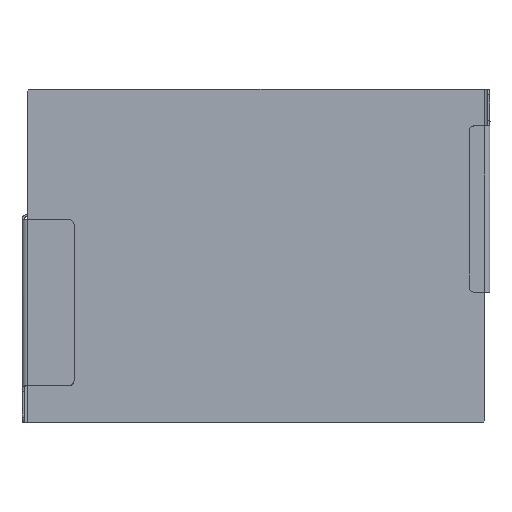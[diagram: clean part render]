
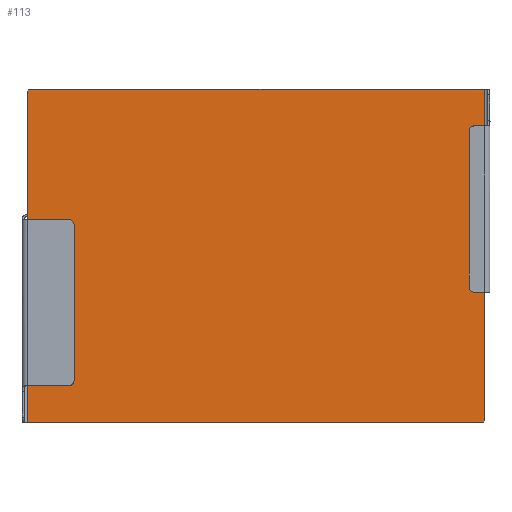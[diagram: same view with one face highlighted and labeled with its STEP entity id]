
A CAD part, top view. The second image highlights one B-rep face of the part: STEP entity #113.
In plain terms, the highlighted planar face has unit normal (0, 0, 1).
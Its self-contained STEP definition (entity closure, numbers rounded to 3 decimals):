
#11=FACE_BOUND('',#328,.T.);
#12=FACE_BOUND('',#329,.T.);
#13=FACE_BOUND('',#330,.T.);
#14=FACE_BOUND('',#331,.T.);
#113=ADVANCED_FACE('',(#220,#11,#12,#13,#14),#1612,.T.);
#220=FACE_OUTER_BOUND('',#327,.T.);
#327=EDGE_LOOP('',(#763,#764,#765,#766,#767,#768,#769,#770));
#328=EDGE_LOOP('',(#771,#772));
#329=EDGE_LOOP('',(#773,#774));
#330=EDGE_LOOP('',(#775,#776));
#331=EDGE_LOOP('',(#777,#778));
#763=ORIENTED_EDGE('',*,*,#1064,.T.);
#764=ORIENTED_EDGE('',*,*,#1073,.T.);
#765=ORIENTED_EDGE('',*,*,#1072,.T.);
#766=ORIENTED_EDGE('',*,*,#1071,.T.);
#767=ORIENTED_EDGE('',*,*,#1070,.T.);
#768=ORIENTED_EDGE('',*,*,#1069,.T.);
#769=ORIENTED_EDGE('',*,*,#1068,.T.);
#770=ORIENTED_EDGE('',*,*,#1067,.T.);
#771=ORIENTED_EDGE('',*,*,#1101,.F.);
#772=ORIENTED_EDGE('',*,*,#1088,.F.);
#773=ORIENTED_EDGE('',*,*,#1104,.F.);
#774=ORIENTED_EDGE('',*,*,#1091,.F.);
#775=ORIENTED_EDGE('',*,*,#1107,.F.);
#776=ORIENTED_EDGE('',*,*,#1094,.F.);
#777=ORIENTED_EDGE('',*,*,#1110,.F.);
#778=ORIENTED_EDGE('',*,*,#1097,.F.);
#1064=EDGE_CURVE('',#1483,#1491,#1297,.T.);
#1067=EDGE_CURVE('',#1485,#1483,#1300,.T.);
#1068=EDGE_CURVE('',#1486,#1485,#1301,.T.);
#1069=EDGE_CURVE('',#1487,#1486,#1302,.T.);
#1070=EDGE_CURVE('',#1488,#1487,#1303,.T.);
#1071=EDGE_CURVE('',#1489,#1488,#1304,.T.);
#1072=EDGE_CURVE('',#1490,#1489,#1305,.T.);
#1073=EDGE_CURVE('',#1491,#1490,#1306,.T.);
#1088=EDGE_CURVE('',#1499,#1507,#1349,.T.);
#1091=EDGE_CURVE('',#1501,#1509,#1351,.T.);
#1094=EDGE_CURVE('',#1503,#1511,#1353,.T.);
#1097=EDGE_CURVE('',#1505,#1513,#1355,.T.);
#1101=EDGE_CURVE('',#1507,#1499,#1357,.T.);
#1104=EDGE_CURVE('',#1509,#1501,#1359,.T.);
#1107=EDGE_CURVE('',#1511,#1503,#1361,.T.);
#1110=EDGE_CURVE('',#1513,#1505,#1363,.T.);
#1297=B_SPLINE_CURVE_WITH_KNOTS('',1,(#3060,#3061),.UNSPECIFIED.,.F.,.F.,
(2,2),(2.98,871.02),.UNSPECIFIED.);
#1300=B_SPLINE_CURVE_WITH_KNOTS('',1,(#3066,#3067),.UNSPECIFIED.,.F.,.F.,
(2,2),(3019.789,3024.032),.UNSPECIFIED.);
#1301=B_SPLINE_CURVE_WITH_KNOTS('',1,(#3068,#3069),.UNSPECIFIED.,.F.,.F.,
(2,2),(2385.789,3019.789),.UNSPECIFIED.);
#1302=B_SPLINE_CURVE_WITH_KNOTS('',1,(#3070,#3071),.UNSPECIFIED.,.F.,.F.,
(2,2),(2381.547,2385.789),.UNSPECIFIED.);
#1303=B_SPLINE_CURVE_WITH_KNOTS('',1,(#3072,#3073),.UNSPECIFIED.,.F.,.F.,
(2,2),(1513.506,2381.547),.UNSPECIFIED.);
#1304=B_SPLINE_CURVE_WITH_KNOTS('',1,(#3074,#3075),.UNSPECIFIED.,.F.,.F.,
(2,2),(1509.263,1513.506),.UNSPECIFIED.);
#1305=B_SPLINE_CURVE_WITH_KNOTS('',1,(#3076,#3077),.UNSPECIFIED.,.F.,.F.,
(2,2),(875.263,1509.263),.UNSPECIFIED.);
#1306=B_SPLINE_CURVE_WITH_KNOTS('',1,(#3078,#3079),.UNSPECIFIED.,.F.,.F.,
(2,2),(871.02,875.263),.UNSPECIFIED.);
#1349=(
BOUNDED_CURVE()
B_SPLINE_CURVE(2,(#3108,#3109,#3110,#3111,#3112),.UNSPECIFIED.,.F.,.F.)
B_SPLINE_CURVE_WITH_KNOTS((3,2,3),(0.,8.639,17.279),
 .UNSPECIFIED.)
CURVE()
GEOMETRIC_REPRESENTATION_ITEM()
RATIONAL_B_SPLINE_CURVE((1.,0.707,1.,0.707,1.))
REPRESENTATION_ITEM('')
);
#1351=(
BOUNDED_CURVE()
B_SPLINE_CURVE(2,(#3120,#3121,#3122,#3123,#3124),.UNSPECIFIED.,.F.,.F.)
B_SPLINE_CURVE_WITH_KNOTS((3,2,3),(0.,8.639,17.279),
 .UNSPECIFIED.)
CURVE()
GEOMETRIC_REPRESENTATION_ITEM()
RATIONAL_B_SPLINE_CURVE((1.,0.707,1.,0.707,1.))
REPRESENTATION_ITEM('')
);
#1353=(
BOUNDED_CURVE()
B_SPLINE_CURVE(2,(#3132,#3133,#3134,#3135,#3136),.UNSPECIFIED.,.F.,.F.)
B_SPLINE_CURVE_WITH_KNOTS((3,2,3),(0.,8.639,17.279),
 .UNSPECIFIED.)
CURVE()
GEOMETRIC_REPRESENTATION_ITEM()
RATIONAL_B_SPLINE_CURVE((1.,0.707,1.,0.707,1.))
REPRESENTATION_ITEM('')
);
#1355=(
BOUNDED_CURVE()
B_SPLINE_CURVE(2,(#3144,#3145,#3146,#3147,#3148),.UNSPECIFIED.,.F.,.F.)
B_SPLINE_CURVE_WITH_KNOTS((3,2,3),(0.,8.639,17.279),
 .UNSPECIFIED.)
CURVE()
GEOMETRIC_REPRESENTATION_ITEM()
RATIONAL_B_SPLINE_CURVE((1.,0.707,1.,0.707,1.))
REPRESENTATION_ITEM('')
);
#1357=(
BOUNDED_CURVE()
B_SPLINE_CURVE(2,(#3158,#3159,#3160,#3161,#3162),.UNSPECIFIED.,.F.,.F.)
B_SPLINE_CURVE_WITH_KNOTS((3,2,3),(17.279,25.918,34.558),
 .UNSPECIFIED.)
CURVE()
GEOMETRIC_REPRESENTATION_ITEM()
RATIONAL_B_SPLINE_CURVE((1.,0.707,1.,0.707,1.))
REPRESENTATION_ITEM('')
);
#1359=(
BOUNDED_CURVE()
B_SPLINE_CURVE(2,(#3170,#3171,#3172,#3173,#3174),.UNSPECIFIED.,.F.,.F.)
B_SPLINE_CURVE_WITH_KNOTS((3,2,3),(17.279,25.918,34.558),
 .UNSPECIFIED.)
CURVE()
GEOMETRIC_REPRESENTATION_ITEM()
RATIONAL_B_SPLINE_CURVE((1.,0.707,1.,0.707,1.))
REPRESENTATION_ITEM('')
);
#1361=(
BOUNDED_CURVE()
B_SPLINE_CURVE(2,(#3182,#3183,#3184,#3185,#3186),.UNSPECIFIED.,.F.,.F.)
B_SPLINE_CURVE_WITH_KNOTS((3,2,3),(17.279,25.918,34.558),
 .UNSPECIFIED.)
CURVE()
GEOMETRIC_REPRESENTATION_ITEM()
RATIONAL_B_SPLINE_CURVE((1.,0.707,1.,0.707,1.))
REPRESENTATION_ITEM('')
);
#1363=(
BOUNDED_CURVE()
B_SPLINE_CURVE(2,(#3194,#3195,#3196,#3197,#3198),.UNSPECIFIED.,.F.,.F.)
B_SPLINE_CURVE_WITH_KNOTS((3,2,3),(17.279,25.918,34.558),
 .UNSPECIFIED.)
CURVE()
GEOMETRIC_REPRESENTATION_ITEM()
RATIONAL_B_SPLINE_CURVE((1.,0.707,1.,0.707,1.))
REPRESENTATION_ITEM('')
);
#1483=VERTEX_POINT('',#3028);
#1485=VERTEX_POINT('',#3030);
#1486=VERTEX_POINT('',#3031);
#1487=VERTEX_POINT('',#3032);
#1488=VERTEX_POINT('',#3033);
#1489=VERTEX_POINT('',#3034);
#1490=VERTEX_POINT('',#3035);
#1491=VERTEX_POINT('',#3036);
#1499=VERTEX_POINT('',#3044);
#1501=VERTEX_POINT('',#3046);
#1503=VERTEX_POINT('',#3048);
#1505=VERTEX_POINT('',#3050);
#1507=VERTEX_POINT('',#3052);
#1509=VERTEX_POINT('',#3054);
#1511=VERTEX_POINT('',#3056);
#1513=VERTEX_POINT('',#3058);
#1612=PLANE('',#1793);
#1793=AXIS2_PLACEMENT_3D('',#3010,#1897,$);
#1897=DIRECTION('',(0.,0.,1.));
#3010=CARTESIAN_POINT('',(9.995,0.,251.));
#3028=CARTESIAN_POINT('',(12.995,0.,251.));
#3030=CARTESIAN_POINT('',(9.995,3.,251.));
#3031=CARTESIAN_POINT('',(9.995,637.,251.));
#3032=CARTESIAN_POINT('',(12.995,640.,251.));
#3033=CARTESIAN_POINT('',(886.995,640.,251.));
#3034=CARTESIAN_POINT('',(889.995,637.,251.));
#3035=CARTESIAN_POINT('',(889.995,3.,251.));
#3036=CARTESIAN_POINT('',(886.995,0.,251.));
#3044=CARTESIAN_POINT('',(878.495,533.,251.));
#3046=CARTESIAN_POINT('',(878.495,290.,251.));
#3048=CARTESIAN_POINT('',(55.495,350.,251.));
#3050=CARTESIAN_POINT('',(55.495,110.,251.));
#3052=CARTESIAN_POINT('',(867.495,533.,251.));
#3054=CARTESIAN_POINT('',(867.495,290.,251.));
#3056=CARTESIAN_POINT('',(44.495,350.,251.));
#3058=CARTESIAN_POINT('',(44.495,110.,251.));
#3060=CARTESIAN_POINT('',(12.995,0.,251.));
#3061=CARTESIAN_POINT('',(886.995,0.,251.));
#3066=CARTESIAN_POINT('',(9.995,3.,251.));
#3067=CARTESIAN_POINT('',(12.995,0.,251.));
#3068=CARTESIAN_POINT('',(9.995,637.,251.));
#3069=CARTESIAN_POINT('',(9.995,3.,251.));
#3070=CARTESIAN_POINT('',(12.995,640.,251.));
#3071=CARTESIAN_POINT('',(9.995,637.,251.));
#3072=CARTESIAN_POINT('',(886.995,640.,251.));
#3073=CARTESIAN_POINT('',(12.995,640.,251.));
#3074=CARTESIAN_POINT('',(889.995,637.,251.));
#3075=CARTESIAN_POINT('',(886.995,640.,251.));
#3076=CARTESIAN_POINT('',(889.995,3.,251.));
#3077=CARTESIAN_POINT('',(889.995,637.,251.));
#3078=CARTESIAN_POINT('',(886.995,0.,251.));
#3079=CARTESIAN_POINT('',(889.995,3.,251.));
#3108=CARTESIAN_POINT('',(878.495,533.,251.));
#3109=CARTESIAN_POINT('',(878.495,538.5,251.));
#3110=CARTESIAN_POINT('',(872.995,538.5,251.));
#3111=CARTESIAN_POINT('',(867.495,538.5,251.));
#3112=CARTESIAN_POINT('',(867.495,533.,251.));
#3120=CARTESIAN_POINT('',(878.495,290.,251.));
#3121=CARTESIAN_POINT('',(878.495,295.5,251.));
#3122=CARTESIAN_POINT('',(872.995,295.5,251.));
#3123=CARTESIAN_POINT('',(867.495,295.5,251.));
#3124=CARTESIAN_POINT('',(867.495,290.,251.));
#3132=CARTESIAN_POINT('',(55.495,350.,251.));
#3133=CARTESIAN_POINT('',(55.495,355.5,251.));
#3134=CARTESIAN_POINT('',(49.995,355.5,251.));
#3135=CARTESIAN_POINT('',(44.495,355.5,251.));
#3136=CARTESIAN_POINT('',(44.495,350.,251.));
#3144=CARTESIAN_POINT('',(55.495,110.,251.));
#3145=CARTESIAN_POINT('',(55.495,115.5,251.));
#3146=CARTESIAN_POINT('',(49.995,115.5,251.));
#3147=CARTESIAN_POINT('',(44.495,115.5,251.));
#3148=CARTESIAN_POINT('',(44.495,110.,251.));
#3158=CARTESIAN_POINT('',(867.495,533.,251.));
#3159=CARTESIAN_POINT('',(867.495,527.5,251.));
#3160=CARTESIAN_POINT('',(872.995,527.5,251.));
#3161=CARTESIAN_POINT('',(878.495,527.5,251.));
#3162=CARTESIAN_POINT('',(878.495,533.,251.));
#3170=CARTESIAN_POINT('',(867.495,290.,251.));
#3171=CARTESIAN_POINT('',(867.495,284.5,251.));
#3172=CARTESIAN_POINT('',(872.995,284.5,251.));
#3173=CARTESIAN_POINT('',(878.495,284.5,251.));
#3174=CARTESIAN_POINT('',(878.495,290.,251.));
#3182=CARTESIAN_POINT('',(44.495,350.,251.));
#3183=CARTESIAN_POINT('',(44.495,344.5,251.));
#3184=CARTESIAN_POINT('',(49.995,344.5,251.));
#3185=CARTESIAN_POINT('',(55.495,344.5,251.));
#3186=CARTESIAN_POINT('',(55.495,350.,251.));
#3194=CARTESIAN_POINT('',(44.495,110.,251.));
#3195=CARTESIAN_POINT('',(44.495,104.5,251.));
#3196=CARTESIAN_POINT('',(49.995,104.5,251.));
#3197=CARTESIAN_POINT('',(55.495,104.5,251.));
#3198=CARTESIAN_POINT('',(55.495,110.,251.));
